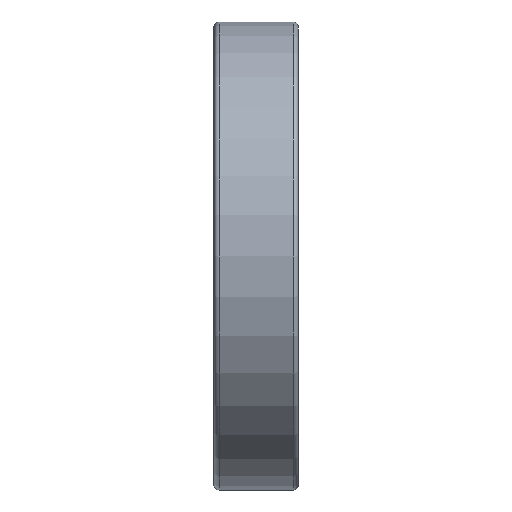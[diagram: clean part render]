
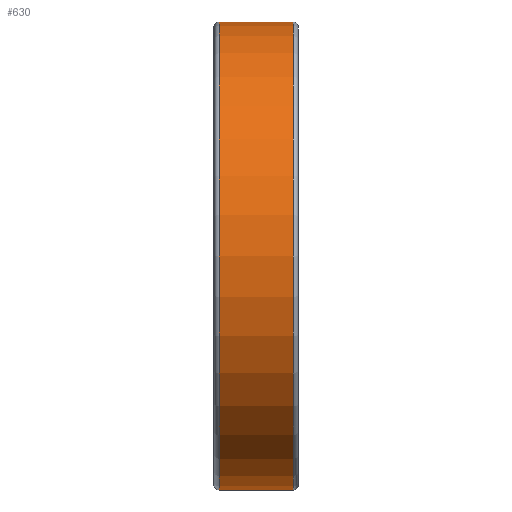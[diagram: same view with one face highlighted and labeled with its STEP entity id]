
A CAD part, front view. The second image highlights one B-rep face of the part: STEP entity #630.
In plain terms, the highlighted cylindrical face has radius 50 mm (diameter 100 mm), a full revolution.
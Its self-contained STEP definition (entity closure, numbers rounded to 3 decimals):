
#182=CYLINDRICAL_SURFACE('',#1002,50.);
#302=EDGE_LOOP('',(#434));
#303=EDGE_LOOP('',(#435));
#434=ORIENTED_EDGE('',*,*,#508,.F.);
#435=ORIENTED_EDGE('',*,*,#506,.T.);
#506=EDGE_CURVE('',#919,#919,#526,.T.);
#508=EDGE_CURVE('',#921,#921,#528,.T.);
#526=CIRCLE('',#998,50.);
#528=CIRCLE('',#1001,50.);
#630=ADVANCED_FACE('',(#801,#802),#182,.T.);
#801=FACE_BOUND('',#302,.T.);
#802=FACE_BOUND('',#303,.T.);
#919=VERTEX_POINT('',#2154);
#921=VERTEX_POINT('',#2159);
#998=AXIS2_PLACEMENT_3D('',#2153,#1141,#1142);
#1001=AXIS2_PLACEMENT_3D('',#2158,#1147,#1148);
#1002=AXIS2_PLACEMENT_3D('',#2160,#1149,#1150);
#1141=DIRECTION('',(1.,0.,0.));
#1142=DIRECTION('',(0.,0.,-1.));
#1147=DIRECTION('',(1.,0.,0.));
#1148=DIRECTION('',(0.,0.,-1.));
#1149=DIRECTION('',(1.,0.,0.));
#1150=DIRECTION('',(0.,0.,-1.));
#2153=CARTESIAN_POINT('',(-7.9,0.,0.));
#2154=CARTESIAN_POINT('',(-7.9,0.,-50.));
#2158=CARTESIAN_POINT('',(8.,0.,0.));
#2159=CARTESIAN_POINT('',(8.,0.,-50.));
#2160=CARTESIAN_POINT('',(-7.9,0.,0.));
